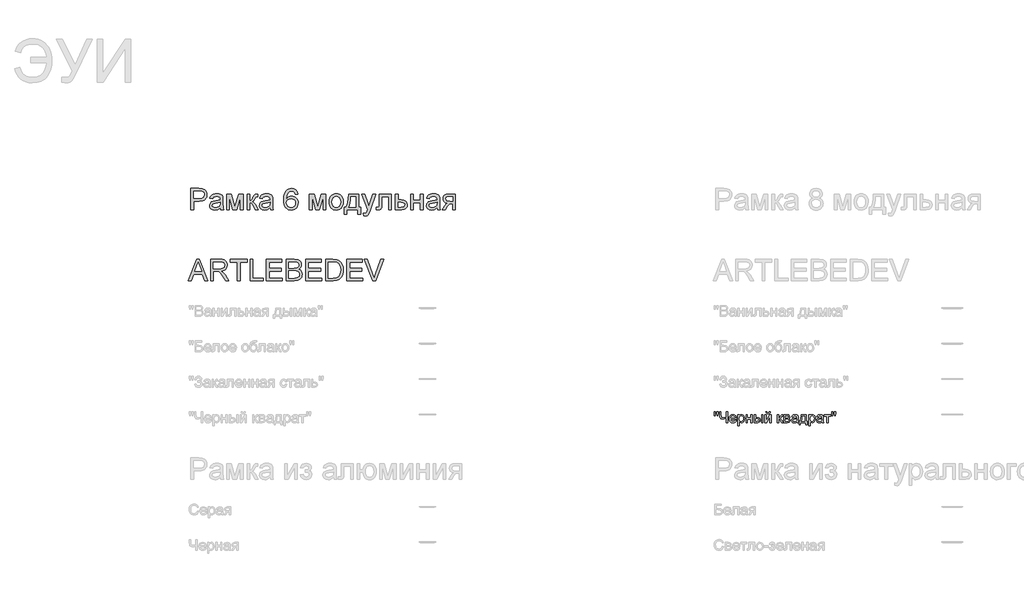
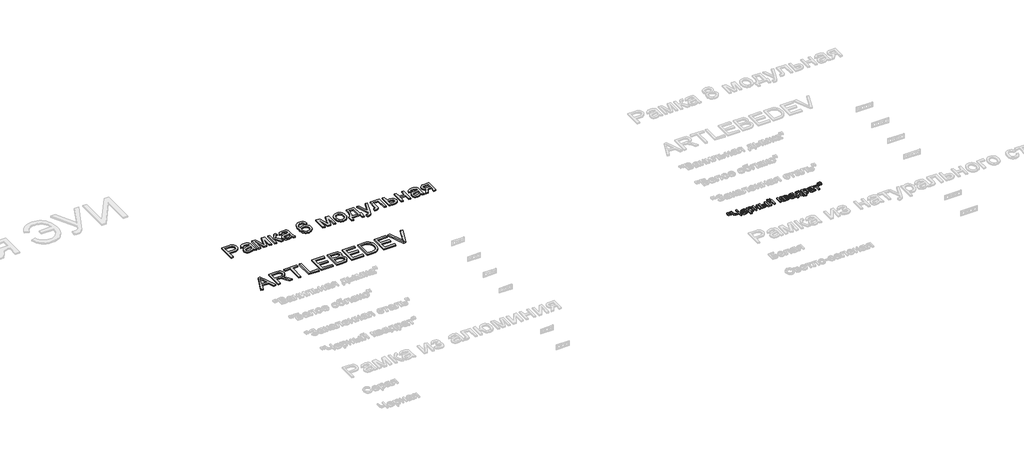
# One storey, part 129 of 168: 3 proxies.
"""IFC4 building model written with IfcOpenShell, lengths in millimetres."""

from ifc_helpers import new_model, si_unit, origin, origin_with_axes, place, context, project, spatial, polyline, outline, extrude, element, save

model = new_model("IFC4")

# Units and contexts
model_context = context("Model", 3, world=origin())
ifc_project = project(units=[si_unit("LENGTHUNIT", "METRE", prefix="MILLI")], contexts=[model_context])

# Site, building, storey
site = spatial("IfcSite", under=ifc_project)
building = spatial("IfcBuilding", under=site)
storey = spatial("IfcBuildingStorey", under=building, Name="Этаж 01", Elevation=0.0)

# Proxies
placement = place(None, origin())
element("IfcBuildingElementProxy", 1, Name="300 мм Arial 2", ObjectType="300 мм Arial 2", at=placement, inside=storey, context=model_context, shape_type="SweptSolid", body=[
    extrude(outline(polyline([(47699.0945017, -5048.4056816), (47699.0945017, -4747.0367511), (47810.7834754, -4747.0367511), (47855.8122316, -4749.9062307), (47875.8893915, -4755.2681108), (47892.4164901, -4763.9961111), (47905.7246213, -4776.4857048), (47916.1448788, -4793.1323651), (47922.8771193, -4812.7680666), (47925.1211995, -4834.224784), (47923.6059855, -4852.7246498), (47919.0603436, -4869.7437906), (47911.4842738, -4885.2822064), (47900.877776, -4899.3398971), (47886.3165468, -4910.9925593), (47866.8762826, -4919.3158895), (47842.5569835, -4924.3098875), (47813.3586494, -4925.9745536), (47736.765618, -4925.9745536), (47736.765618, -5048.4056816), (47699.0945017, -5048.4056816)]), holes=[polyline([(47736.765618, -4888.3034373), (47815.5659413, -4888.3034373), (47848.9696265, -4884.8453465), (47871.0425462, -4874.4710742), (47883.3481989, -4857.824414), (47887.4500832, -4835.5491592), (47885.0312591, -4818.6265874), (47877.7747867, -4804.352766), (47866.581977, -4793.6106117), (47852.3541408, -4787.2830414), (47814.6830245, -4784.7078674), (47736.765618, -4784.7078674), (47736.765618, -4888.3034373)])]), origin_with_axes(), (0.0, 0.0, 1.0), 20.0),
    extrude(outline(polyline([(48113.476781, -5020.1523443), (48095.4781544, -5035.584994), (48076.9460989, -5045.6833548), (48057.4575502, -5051.256767), (48036.589444, -5053.1145711), (48005.1079423, -5048.6448049), (47981.8853914, -5035.2355061), (47967.5655847, -5014.8732377), (47962.7923158, -4989.5445623), (47964.5949376, -4973.9279716), (47970.0028029, -4959.7461207), (47978.3445271, -4947.6060149), (47988.9487257, -4938.1146594), (48015.3258647, -4925.7538244), (48047.9202095, -4920.0884417), (48086.4374544, -4914.1287533), (48113.2560518, -4907.1389954), (48113.476781, -4898.7512859), (48110.883213, -4881.9390788), (48103.1025088, -4870.9394071), (48085.7016904, -4862.7724268), (48061.4582669, -4860.0501), (48039.0174652, -4861.8619189), (48023.3456922, -4867.2973753), (48012.6587202, -4877.3497509), (48005.1723216, -4893.0123268), (47967.5012053, -4888.3034373), (47974.0403078, -4867.7020455), (47983.7983777, -4851.5152378), (47997.685923, -4839.1360086), (48016.6134517, -4829.9573528), (48039.7624262, -4824.273576), (48066.3143092, -4822.3789837), (48091.7809404, -4824.0528468), (48111.9684648, -4829.074436), (48127.1895824, -4836.625214), (48137.7569927, -4845.8866432), (48144.7651447, -4857.3369703), (48149.3084874, -4871.4544419), (48151.1478973, -4904.4166687), (48151.1478973, -4951.2848348), (48153.0608837, -5016.7310418), (48160.5656764, -5048.4056816), (48122.8945601, -5048.4056816), (48113.476781, -5020.1523443)]), holes=[polyline([(48113.476781, -4944.8101117), (48052.7026754, -4956.3616064), (48020.2922716, -4962.4684475), (48005.61378, -4972.4012614), (48000.4634321, -4986.895812), (48003.2685323, -4998.0978187), (48011.683833, -5007.2764745), (48025.525393, -5013.4017097), (48044.6092715, -5015.4434548), (48064.8427813, -5013.1901776), (48082.7218462, -5006.4303459), (48097.2163968, -4996.4699409), (48107.2963635, -4984.6149436), (48111.7661297, -4972.4012614), (48113.2560518, -4955.4786896), (48113.476781, -4944.8101117)])]), origin_with_axes(), (0.0, 0.0, 1.0), 20.0),
    extrude(outline(polyline([(48202.9456823, -4827.0878733), (48267.7664898, -4827.0878733), (48317.7248647, -5004.2598421), (48371.5827888, -4827.0878733), (48433.6812696, -4827.0878733), (48433.6812696, -5048.4056816), (48396.0101533, -5048.4056816), (48396.0101533, -4870.2036431), (48341.8579236, -5048.4056816), (48292.4145835, -5048.4056816), (48240.6167986, -4861.6687808), (48240.6167986, -5048.4056816), (48202.9456823, -5048.4056816), (48202.9456823, -4827.0878733)])), origin_with_axes(), (0.0, 0.0, 1.0), 20.0),
    extrude(outline(polyline([(48490.1879441, -4827.0878733), (48527.8590604, -4827.0878733), (48527.8590604, -4921.265664), (48543.1813455, -4919.5734069), (48553.0957653, -4914.4966353), (48561.8697508, -4901.2528835), (48573.7707334, -4875.0596854), (48590.9508226, -4841.0306009), (48606.1075608, -4829.9573528), (48633.6619222, -4827.0878733), (48640.8724093, -4827.0878733), (48640.8724093, -4864.9797188), (48630.7188662, -4864.7589896), (48612.3247665, -4868.7321151), (48599.3753203, -4893.5273616), (48584.1817939, -4920.345959), (48562.8814263, -4933.4793463), (48574.8191971, -4938.7814455), (48586.6466032, -4948.1394438), (48609.9703217, -4979.0231373), (48650.2901884, -5048.4056816), (48607.4687241, -5048.4056816), (48567.9581979, -4980.4946653), (48548.0925701, -4951.7630814), (48538.8035497, -4946.5483542), (48527.8590604, -4944.8101117), (48527.8590604, -5048.4056816), (48490.1879441, -5048.4056816), (48490.1879441, -4827.0878733)])), origin_with_axes(), (0.0, 0.0, 1.0), 20.0),
    extrude(outline(polyline([(48815.1013222, -5020.1523443), (48797.1026956, -5035.584994), (48778.5706401, -5045.6833548), (48759.0820914, -5051.256767), (48738.2139852, -5053.1145711), (48706.7324835, -5048.6448049), (48683.5099326, -5035.2355061), (48669.1901259, -5014.8732377), (48664.416857, -4989.5445623), (48666.2194788, -4973.9279716), (48671.6273441, -4959.7461207), (48679.9690683, -4947.6060149), (48690.5732669, -4938.1146594), (48716.9504059, -4925.7538244), (48749.5447507, -4920.0884417), (48788.0619956, -4914.1287533), (48814.880593, -4907.1389954), (48815.1013222, -4898.7512859), (48812.5077542, -4881.9390788), (48804.72705, -4870.9394071), (48787.3262316, -4862.7724268), (48763.0828081, -4860.0501), (48740.6420064, -4861.8619189), (48724.9702334, -4867.2973753), (48714.2832614, -4877.3497509), (48706.7968628, -4893.0123268), (48669.1257465, -4888.3034373), (48675.664849, -4867.7020455), (48685.4229189, -4851.5152378), (48699.3104642, -4839.1360086), (48718.2379929, -4829.9573528), (48741.3869674, -4824.273576), (48767.9388504, -4822.3789837), (48793.4054816, -4824.0528468), (48813.593006, -4829.074436), (48828.8141236, -4836.625214), (48839.3815339, -4845.8866432), (48846.3896859, -4857.3369703), (48850.9330286, -4871.4544419), (48852.7724385, -4904.4166687), (48852.7724385, -4951.2848348), (48854.6854249, -5016.7310418), (48862.1902176, -5048.4056816), (48824.5191013, -5048.4056816), (48815.1013222, -5020.1523443)]), holes=[polyline([(48815.1013222, -4944.8101117), (48754.3272166, -4956.3616064), (48721.9168128, -4962.4684475), (48707.2383212, -4972.4012614), (48702.0879733, -4986.895812), (48704.8930735, -4998.0978187), (48713.3083742, -5007.2764745), (48727.1499342, -5013.4017097), (48746.2338127, -5015.4434548), (48766.4673225, -5013.1901776), (48784.3463874, -5006.4303459), (48798.840938, -4996.4699409), (48808.9209047, -4984.6149436), (48813.3906709, -4972.4012614), (48814.880593, -4955.4786896), (48815.1013222, -4944.8101117)])]), origin_with_axes(), (0.0, 0.0, 1.0), 20.0),
    extrude(outline(polyline([(49205.9391539, -4827.0878733), (49168.2680376, -4831.7967628), (49162.1979847, -4813.1267516), (49153.9942162, -4800.3796404), (49136.9060975, -4788.6258107), (49116.2495235, -4784.7078674), (49098.7383405, -4786.9887358), (49082.2572271, -4793.8313409), (49068.1029674, -4808.2431181), (49056.5422757, -4828.0811547), (49048.7339803, -4856.1413538), (49045.8369096, -4895.2196188), (49060.9476626, -4877.5888742), (49079.0566538, -4865.1636598), (49099.1522078, -4857.7968228), (49120.222649, -4855.3412105), (49138.3224432, -4857.0196721), (49155.0242858, -4862.0550569), (49170.3281768, -4870.4473649), (49184.2341162, -4882.1965961), (49195.7902094, -4896.6037748), (49204.0445616, -4912.969925), (49208.997173, -4931.2950469), (49210.6480434, -4951.5791404), (49207.5394406, -4978.5540877), (49198.213632, -5003.5608664), (49183.4431699, -5024.7692634), (49164.0006065, -5040.3490659), (49140.7688585, -5049.9231948), (49114.6308427, -5053.1145711), (49092.1739462, -5050.9992496), (49071.8921519, -5044.6532852), (49053.78546, -5034.0766779), (49037.8538703, -5019.2694276), (49024.8653366, -4999.6061349), (49015.5878125, -4974.4614005), (49010.0212981, -4943.8352244), (49008.1657933, -4907.7276066), (49010.2259325, -4867.2467916), (49016.40635, -4832.6980737), (49026.7070459, -4804.081453), (49041.1280201, -4781.3969295), (49056.7584063, -4766.3643514), (49074.8811931, -4755.6267957), (49095.4963804, -4749.1842623), (49118.6039682, -4747.0367511), (49151.6581655, -4752.352646), (49178.1272751, -4768.3003304), (49196.6685276, -4793.6290058), (49205.9391539, -4827.0878733)]), holes=[polyline([(49045.8369096, -4950.9905292), (49048.0166104, -4967.6831748), (49054.5557129, -4983.6216622), (49064.709256, -4997.3252665), (49077.7322786, -5007.3132627), (49093.4500368, -5013.4109068), (49111.6877867, -5015.4434548), (49136.5474126, -5011.231206), (49156.0911436, -4998.5944594), (49168.7554812, -4978.7288317), (49172.9769271, -4952.8299392), (49168.8106635, -4927.9703134), (49156.3118728, -4909.0151936), (49136.437048, -4897.0130435), (49110.1426824, -4893.0123268), (49085.3198447, -4897.0130435), (49064.5621032, -4909.0151936), (49050.518208, -4927.5104609), (49045.8369096, -4950.9905292)])]), origin_with_axes(), (0.0, 0.0, 1.0), 20.0),
    extrude(outline(polyline([(49370.7502877, -4827.0878733), (49435.5710953, -4827.0878733), (49485.5294702, -5004.2598421), (49539.3873943, -4827.0878733), (49601.4858751, -4827.0878733), (49601.4858751, -5048.4056816), (49563.8147588, -5048.4056816), (49563.8147588, -4870.2036431), (49509.6625291, -5048.4056816), (49460.219189, -5048.4056816), (49408.421404, -4861.6687808), (49408.421404, -5048.4056816), (49370.7502877, -5048.4056816), (49370.7502877, -4827.0878733)])), origin_with_axes(), (0.0, 0.0, 1.0), 20.0),
    extrude(outline(polyline([(49648.5747705, -4937.7467774), (49650.611917, -4909.0841715), (49656.7233567, -4884.385494), (49666.9090894, -4863.6507451), (49681.1691153, -4846.8799246), (49695.5257101, -4836.160763), (49711.3722271, -4828.504219), (49728.7086661, -4823.9102925), (49747.5350272, -4822.3789837), (49768.3180607, -4824.2436856), (49787.1099328, -4829.8377912), (49803.9106437, -4839.1613005), (49818.7201933, -4852.2142135), (49830.8074161, -4868.5550719), (49839.4411466, -4887.7424172), (49844.621385, -4909.7762495), (49846.3481311, -4934.6565687), (49843.2947105, -4972.7139611), (49834.1344489, -5001.6846682), (49819.1340605, -5023.3805088), (49798.5602599, -5039.6133019), (49774.1236984, -5049.7392538), (49747.5350272, -5053.1145711), (49726.4484911, -5051.256767), (49707.481875, -5045.6833548), (49690.6351789, -5036.3943344), (49675.9084027, -5023.3897059), (49663.9499386, -5006.8901984), (49655.4081786, -4987.1165412), (49650.2831225, -4964.0687342), (49648.5747705, -4937.7467774)]), holes=[polyline([(49686.2458868, -4937.673201), (49690.6052884, -4971.7666649), (49703.6834934, -4996.0560737), (49723.3651801, -5010.5966095), (49747.5350272, -5015.4434548), (49771.5945097, -5010.5690184), (49791.2394082, -4995.9457091), (49804.3176132, -4971.3344036), (49808.6770148, -4936.4959786), (49804.290022, -4903.3957961), (49791.1290436, -4879.4374812), (49771.4565539, -4864.8969453), (49747.5350272, -4860.0501), (49723.3651801, -4864.8785512), (49703.6834934, -4879.3639048), (49690.6052884, -4903.5981312), (49686.2458868, -4937.673201)])]), origin_with_axes(), (0.0, 0.0, 1.0), 20.0),
    extrude(outline(polyline([(49921.6903637, -4827.0878733), (50062.9570499, -4827.0878733), (50062.9570499, -5010.7345653), (50091.2103871, -5010.7345653), (50091.2103871, -5109.6212456), (50053.5392708, -5109.6212456), (50053.5392708, -5048.4056816), (49898.145916, -5048.4056816), (49898.145916, -5109.6212456), (49860.4747997, -5109.6212456), (49860.4747997, -5010.7345653), (49884.0192474, -5010.7345653), (49901.1349572, -4979.8048865), (49913.1187132, -4938.8872116), (49919.9705154, -4887.9815405), (49921.6903637, -4827.0878733)]), holes=[polyline([(49954.6525905, -4864.7589896), (49951.5623817, -4910.8821947), (49945.8234226, -4950.5858591), (49937.4357131, -4983.8699826), (49926.3992533, -5010.7345653), (50025.2859336, -5010.7345653), (50025.2859336, -4864.7589896), (49954.6525905, -4864.7589896)])]), origin_with_axes(), (0.0, 0.0, 1.0), 20.0),
    extrude(outline(polyline([(50133.5903929, -5133.1656933), (50128.8815034, -5096.8925285), (50148.0113672, -5100.2034665), (50165.8904321, -5096.0463999), (50176.8533156, -5084.4581171), (50187.1540114, -5056.7198147), (50190.0970674, -5047.5963412), (50110.0459452, -4827.0878733), (50149.7772007, -4827.0878733), (50192.230783, -4949.9604597), (50207.0196392, -4999.1094942), (50221.8084954, -4955.6994188), (50265.4393, -4827.0878733), (50304.8762499, -4827.0878733), (50227.8417601, -5053.7031823), (50207.8289796, -5102.8522169), (50197.583466, -5118.5423839), (50185.9767891, -5129.4132969), (50172.4939139, -5135.7592613), (50156.6198058, -5137.8745828), (50133.5903929, -5133.1656933)])), origin_with_axes(), (0.0, 0.0, 1.0), 20.0),
    extrude(outline(polyline([(50354.9082012, -4827.0878733), (50524.4282246, -4827.0878733), (50524.4282246, -5048.1849524), (50486.7571083, -5048.1849524), (50486.7571083, -4864.7589896), (50392.5793175, -4864.7589896), (50392.5793175, -4970.3411222), (50390.0409318, -5019.0486984), (50385.286057, -5030.0759612), (50376.0982042, -5039.6133019), (50362.1554765, -5046.2075866), (50343.1359774, -5048.4056816), (50312.5281954, -5046.4926952), (50312.5281954, -5010.7345653), (50329.3771908, -5010.7345653), (50346.4101271, -5008.4169087), (50353.2159441, -5001.0592688), (50354.9082012, -4968.2074066), (50354.9082012, -4827.0878733)])), origin_with_axes(), (0.0, 0.0, 1.0), 20.0),
    extrude(outline(polyline([(50580.9348991, -4827.0878733), (50618.6060154, -4827.0878733), (50618.6060154, -4907.1389954), (50662.0160908, -4907.1389954), (50699.6504189, -4911.857082), (50714.7979601, -4917.7546902), (50727.499086, -4926.0113418), (50737.5422644, -4936.3419281), (50744.7159633, -4948.4613405), (50750.4549225, -4978.0666441), (50745.571289, -5005.0231973), (50730.9203885, -5027.7675016), (50719.6884913, -5036.7967054), (50705.5273338, -5043.2461366), (50668.4172375, -5048.4056816), (50580.9348991, -5048.4056816), (50580.9348991, -4827.0878733)]), holes=[polyline([(50618.6060154, -5010.7345653), (50653.7755341, -5010.7345653), (50681.0631811, -5008.7571995), (50699.2089605, -5002.8251024), (50709.3900947, -4992.6991504), (50712.7838061, -4978.1402205), (50710.2730115, -4965.8345678), (50702.7406277, -4954.9636548), (50686.5998051, -4947.3484975), (50658.2636945, -4944.8101117), (50618.6060154, -4944.8101117), (50618.6060154, -5010.7345653)])]), origin_with_axes(), (0.0, 0.0, 1.0), 20.0),
    extrude(outline(polyline([(50797.5438178, -4827.0878733), (50835.2149341, -4827.0878733), (50835.2149341, -4911.847885), (50934.1016144, -4911.847885), (50934.1016144, -4827.0878733), (50971.7727308, -4827.0878733), (50971.7727308, -5048.4056816), (50934.1016144, -5048.4056816), (50934.1016144, -4949.5190013), (50835.2149341, -4949.5190013), (50835.2149341, -5048.4056816), (50797.5438178, -5048.4056816), (50797.5438178, -4827.0878733)])), origin_with_axes(), (0.0, 0.0, 1.0), 20.0),
    extrude(outline(polyline([(51169.5460914, -5020.1523443), (51151.5474647, -5035.584994), (51133.0154092, -5045.6833548), (51113.5268605, -5051.256767), (51092.6587544, -5053.1145711), (51061.1772526, -5048.6448049), (51037.9547017, -5035.2355061), (51023.634895, -5014.8732377), (51018.8616261, -4989.5445623), (51020.6642479, -4973.9279716), (51026.0721132, -4959.7461207), (51034.4138375, -4947.6060149), (51045.018036, -4938.1146594), (51071.395175, -4925.7538244), (51103.9895198, -4920.0884417), (51142.5067647, -4914.1287533), (51169.3253622, -4907.1389954), (51169.5460914, -4898.7512859), (51166.9525233, -4881.9390788), (51159.1718191, -4870.9394071), (51141.7710007, -4862.7724268), (51117.5275772, -4860.0501), (51095.0867755, -4861.8619189), (51079.4150025, -4867.2973753), (51068.7280306, -4877.3497509), (51061.241632, -4893.0123268), (51023.5705157, -4888.3034373), (51030.1096181, -4867.7020455), (51039.8676881, -4851.5152378), (51053.7552334, -4839.1360086), (51072.682762, -4829.9573528), (51095.8317366, -4824.273576), (51122.3836196, -4822.3789837), (51147.8502507, -4824.0528468), (51168.0377752, -4829.074436), (51183.2588927, -4836.625214), (51193.826303, -4845.8866432), (51200.834455, -4857.3369703), (51205.3777977, -4871.4544419), (51207.2172077, -4904.4166687), (51207.2172077, -4951.2848348), (51209.130194, -5016.7310418), (51216.6349867, -5048.4056816), (51178.9638704, -5048.4056816), (51169.5460914, -5020.1523443)]), holes=[polyline([(51169.5460914, -4944.8101117), (51108.7719858, -4956.3616064), (51076.361582, -4962.4684475), (51061.6830904, -4972.4012614), (51056.5327424, -4986.895812), (51059.3378427, -4998.0978187), (51067.7531433, -5007.2764745), (51081.5947034, -5013.4017097), (51100.6785819, -5015.4434548), (51120.9120916, -5013.1901776), (51138.7911566, -5006.4303459), (51153.2857072, -4996.4699409), (51163.3656738, -4984.6149436), (51167.8354401, -4972.4012614), (51169.3253622, -4955.4786896), (51169.5460914, -4944.8101117)])]), origin_with_axes(), (0.0, 0.0, 1.0), 20.0),
    extrude(outline(polyline([(51428.535016, -4827.0878733), (51428.535016, -5048.4056816), (51390.8638997, -5048.4056816), (51390.8638997, -4963.6456699), (51370.3360843, -4963.6456699), (51342.3770527, -4968.4281358), (51331.2118341, -4978.8575904), (51316.1102782, -5000.5810222), (51286.0911074, -5048.4056816), (51242.5338792, -5048.4056816), (51280.3521483, -4987.9258816), (51297.0539909, -4966.2208438), (51312.4314583, -4956.5823356), (51286.6797186, -4948.6912668), (51268.5799245, -4933.7000755), (51257.8745584, -4913.7608713), (51254.306103, -4891.025764), (51259.1805395, -4865.2372362), (51273.8038488, -4844.8197854), (51297.6609962, -4831.5208513), (51330.2369469, -4827.0878733), (51428.535016, -4827.0878733)]), holes=[polyline([(51390.8638997, -4864.7589896), (51341.1998303, -4864.7589896), (51315.5492582, -4866.9386904), (51300.9903282, -4873.4777929), (51294.2304966, -4882.9415572), (51291.9772194, -4893.8952436), (51295.2973544, -4908.2518385), (51305.2577594, -4918.2122435), (51323.6610562, -4924.033976), (51352.3098666, -4925.9745536), (51390.8638997, -4925.9745536), (51390.8638997, -4864.7589896)])]), origin_with_axes(), (0.0, 0.0, 1.0), 20.0),
])
element("IfcBuildingElementProxy", 2, Name="300 мм Arial 2", ObjectType="300 мм Arial 2", at=placement, inside=storey, context=model_context, shape_type="SweptSolid", body=[
    extrude(outline(polyline([(47663.9985593, -6048.4056816), (47784.2959717, -5747.0367511), (47816.3752817, -5747.0367511), (47936.6726941, -6048.4056816), (47896.8678623, -6048.4056816), (47862.3605311, -5954.2278908), (47738.2371459, -5954.2278908), (47703.8033912, -6048.4056816), (47663.9985593, -6048.4056816)]), holes=[polyline([(47752.069509, -5916.5567745), (47848.6017445, -5916.5567745), (47821.4520533, -5842.4653407), (47800.3356267, -5784.7078674), (47781.573645, -5835.9906176), (47752.069509, -5916.5567745)])]), origin_with_axes(), (0.0, 0.0, 1.0), 20.0),
    extrude(outline(polyline([(47976.9189844, -6048.4056816), (47976.9189844, -5747.0367511), (48106.7813287, -5747.0367511), (48141.684133, -5749.0692991), (48167.0771877, -5755.1669432), (48185.6368344, -5766.4241323), (48200.0394145, -5783.9353152), (48209.2824496, -5805.64955), (48212.3634613, -5829.5158944), (48207.2590986, -5859.2039714), (48191.9460106, -5883.8152769), (48180.3462314, -5893.8446598), (48165.9643447, -5901.8598888), (48128.8542484, -5911.847885), (48150.2649805, -5927.9611163), (48180.7991861, -5966.7358786), (48231.0518667, -6048.4056816), (48187.2739093, -6048.4056816), (48148.0576886, -5985.9393188), (48119.7307749, -5944.5893825), (48099.828359, -5925.0548486), (48081.9125058, -5917.8811497), (48060.0603153, -5916.5567745), (48014.5901007, -5916.5567745), (48014.5901007, -6048.4056816), (47976.9189844, -6048.4056816)]), holes=[polyline([(48014.5901007, -5878.8856582), (48098.908654, -5878.8856582), (48123.1244863, -5877.552086), (48141.9140593, -5873.5513693), (48156.059122, -5866.6167937), (48166.3414237, -5856.4816447), (48172.6046147, -5844.2219772), (48174.692345, -5830.913846), (48170.7100224, -5812.5381404), (48158.7630546, -5797.7308901), (48138.2076482, -5787.9636231), (48108.4000095, -5784.7078674), (48014.5901007, -5784.7078674), (48014.5901007, -5878.8856582)])]), origin_with_axes(), (0.0, 0.0, 1.0), 20.0),
    extrude(outline(polyline([(48353.6301475, -6048.4056816), (48353.6301475, -5784.7078674), (48254.7434672, -5784.7078674), (48254.7434672, -5747.0367511), (48490.1879441, -5747.0367511), (48490.1879441, -5784.7078674), (48391.3012638, -5784.7078674), (48391.3012638, -6048.4056816), (48353.6301475, -6048.4056816)])), origin_with_axes(), (0.0, 0.0, 1.0), 20.0),
    extrude(outline(polyline([(48532.5679499, -6048.4056816), (48532.5679499, -5747.0367511), (48570.2390662, -5747.0367511), (48570.2390662, -6010.7345653), (48720.9235315, -6010.7345653), (48720.9235315, -6048.4056816), (48532.5679499, -6048.4056816)])), origin_with_axes(), (0.0, 0.0, 1.0), 20.0),
    extrude(outline(polyline([(48763.3035373, -6048.4056816), (48763.3035373, -5747.0367511), (48979.9124561, -5747.0367511), (48979.9124561, -5784.7078674), (48800.9746536, -5784.7078674), (48800.9746536, -5874.1767687), (48970.494677, -5874.1767687), (48970.494677, -5911.847885), (48800.9746536, -5911.847885), (48800.9746536, -6010.7345653), (48984.6213456, -6010.7345653), (48984.6213456, -6048.4056816), (48763.3035373, -6048.4056816)])), origin_with_axes(), (0.0, 0.0, 1.0), 20.0),
    extrude(outline(polyline([(49041.1280201, -6048.4056816), (49041.1280201, -5747.0367511), (49156.1279318, -5747.0367511), (49187.7565863, -5749.2532401), (49212.4506652, -5755.9027072), (49231.3781939, -5767.1506992), (49245.7071976, -5783.162763), (49254.7295035, -5801.9983212), (49257.7369388, -5821.7167961), (49255.2077501, -5839.8625756), (49247.620184, -5856.9231031), (49234.9190581, -5871.849915), (49217.0491902, -5883.5945477), (49238.3955429, -5894.7413722), (49254.1684835, -5911.7007322), (49263.9081593, -5933.3505876), (49267.1547179, -5958.5688983), (49264.9382289, -5979.5841573), (49258.2887618, -5999.072706), (49248.365145, -6015.6457899), (49236.3262067, -6027.9146544), (49221.5833357, -6036.7990046), (49203.5479209, -6043.2185454), (49155.245015, -6048.4056816), (49041.1280201, -6048.4056816)]), holes=[polyline([(49078.7991364, -5869.4678791), (49147.5930695, -5869.4678791), (49187.7657833, -5866.2305176), (49201.8280726, -5860.6479083), (49211.9356304, -5852.2877899), (49218.0332745, -5841.2789212), (49220.0658225, -5827.7500609), (49218.1712302, -5814.6166736), (49212.4874534, -5803.1755436), (49203.2720094, -5794.2452082), (49190.7824157, -5788.6442048), (49142.3691451, -5784.7078674), (49078.7991364, -5784.7078674), (49078.7991364, -5869.4678791)]), polyline([(49078.7991364, -6010.7345653), (49156.0543554, -6010.7345653), (49184.013387, -6009.2630373), (49207.6681993, -6001.0592688), (49223.3399723, -5984.320638), (49227.9476943, -5972.4932319), (49229.4836016, -5958.9367803), (49227.6809798, -5943.1914309), (49222.2731145, -5929.6533735), (49212.8277443, -5919.0675691), (49198.9126078, -5912.1789788), (49179.2033299, -5908.3989913), (49152.3755354, -5907.1389954), (49078.7991364, -5907.1389954), (49078.7991364, -6010.7345653)])]), origin_with_axes(), (0.0, 0.0, 1.0), 20.0),
    extrude(outline(polyline([(49318.9525028, -6048.4056816), (49318.9525028, -5747.0367511), (49535.5614216, -5747.0367511), (49535.5614216, -5784.7078674), (49356.6236191, -5784.7078674), (49356.6236191, -5874.1767687), (49526.1436425, -5874.1767687), (49526.1436425, -5911.847885), (49356.6236191, -5911.847885), (49356.6236191, -6010.7345653), (49540.2703111, -6010.7345653), (49540.2703111, -6048.4056816), (49318.9525028, -6048.4056816)])), origin_with_axes(), (0.0, 0.0, 1.0), 20.0),
    extrude(outline(polyline([(49596.7769856, -6048.4056816), (49596.7769856, -5747.0367511), (49700.7404374, -5747.0367511), (49754.5247851, -5751.3777587), (49778.5474794, -5759.7470741), (49798.8177773, -5772.9356436), (49819.6582924, -5795.8914801), (49834.5023309, -5824.4391229), (49843.386681, -5858.0267491), (49846.3481311, -5896.1025356), (49844.3431742, -5928.44856), (49838.3283036, -5956.9134294), (49829.1680419, -5981.1476558), (49817.7269119, -6000.8017514), (49804.5567365, -6016.3171745), (49790.2093386, -6028.1353836), (49773.7374223, -6036.9001722), (49754.1936913, -6043.2553336), (49705.7436325, -6048.4056816), (49596.7769856, -6048.4056816)]), holes=[polyline([(49634.4481019, -6010.7345653), (49701.1083194, -6010.7345653), (49728.6810749, -6009.3734019), (49749.5951664, -6005.2899117), (49765.377304, -5998.7232181), (49777.554198, -5989.9124443), (49790.6416, -5973.6060749), (49800.4732463, -5952.4988454), (49806.6260727, -5926.4987854), (49808.6770148, -5895.5139244), (49804.657904, -5854.4582937), (49792.6005716, -5824.1448173), (49774.785886, -5803.3226964), (49753.4947155, -5790.7411321), (49731.826466, -5786.2161836), (49700.0782498, -5784.7078674), (49634.4481019, -5784.7078674), (49634.4481019, -6010.7345653)])]), origin_with_axes(), (0.0, 0.0, 1.0), 20.0),
    extrude(outline(polyline([(49898.145916, -6048.4056816), (49898.145916, -5747.0367511), (50114.7548348, -5747.0367511), (50114.7548348, -5784.7078674), (49935.8170323, -5784.7078674), (49935.8170323, -5874.1767687), (50105.3370557, -5874.1767687), (50105.3370557, -5911.847885), (49935.8170323, -5911.847885), (49935.8170323, -6010.7345653), (50119.4637243, -6010.7345653), (50119.4637243, -6048.4056816), (49898.145916, -6048.4056816)])), origin_with_axes(), (0.0, 0.0, 1.0), 20.0),
    extrude(outline(polyline([(50264.9978416, -6048.4056816), (50145.0683112, -5747.0367511), (50185.3881779, -5747.0367511), (50265.6600292, -5964.1607047), (50281.9204134, -6013.08901), (50297.9600684, -5964.1607047), (50378.4526489, -5747.0367511), (50418.7725156, -5747.0367511), (50303.9197567, -6048.4056816), (50264.9978416, -6048.4056816)])), origin_with_axes(), (0.0, 0.0, 1.0), 20.0),
])
element("IfcBuildingElementProxy", 3, Name="150", ObjectType="150", at=placement, inside=storey, context=model_context, shape_type="SweptSolid", body=[
    extrude(outline(polyline([(55080.1485789, -7951.873446), (55075.550054, -7922.7739802), (55075.550054, -7897.7212163), (55094.3856121, -7897.7212163), (55094.3856121, -7922.7739802), (55090.2653338, -7951.873446), (55080.1485789, -7951.873446)])), origin_with_axes(), (0.0, 0.0, 1.0), 20.0),
    extrude(outline(polyline([(55117.7093306, -7951.873446), (55113.2211703, -7922.7739802), (55113.2211703, -7897.7212163), (55132.0567284, -7897.7212163), (55132.0567284, -7922.7739802), (55127.6421445, -7951.873446), (55117.7093306, -7951.873446)])), origin_with_axes(), (0.0, 0.0, 1.0), 20.0),
    extrude(outline(polyline([(55263.9056355, -8048.4056816), (55245.0700773, -8048.4056816), (55245.0700773, -7988.0730344), (55220.0908899, -7996.2400147), (55198.4226404, -7998.9623414), (55183.7395502, -7997.0999388), (55170.886673, -7991.512731), (55160.926268, -7983.0606422), (55154.9205944, -7972.6035965), (55150.8922866, -7942.6028198), (55150.8922866, -7897.7212163), (55169.7278447, -7897.7212163), (55169.7278447, -7940.064434), (55171.990319, -7960.4313009), (55178.7777418, -7972.3828673), (55188.7381468, -7978.1908043), (55200.5195677, -7980.1267833), (55222.2521966, -7977.7907326), (55245.0700773, -7970.7825806), (55245.0700773, -7897.7212163), (55263.9056355, -7897.7212163), (55263.9056355, -8048.4056816)])), origin_with_axes(), (0.0, 0.0, 1.0), 20.0),
    extrude(outline(polyline([(55371.9893657, -8015.4434548), (55390.4570418, -8017.7978996), (55383.8029763, -8031.713036), (55373.1849822, -8042.1148995), (55358.8421829, -8048.5988196), (55341.0137017, -8050.7601263), (55318.9131908, -8047.0307226), (55301.9078456, -8035.8425114), (55291.0645238, -8017.9220597), (55287.4500832, -7993.9959345), (55291.101312, -7969.2650674), (55302.0549984, -7950.7698), (55318.8304174, -7939.2366995), (55339.9468439, -7935.3923327), (55360.4056814, -7939.2275025), (55376.7534375, -7950.7330118), (55387.4725992, -7969.191491), (55391.045653, -7993.8855699), (55390.9352884, -7998.9623414), (55306.2856413, -7998.9623414), (55309.5459955, -8013.0614189), (55317.1197661, -8023.4264941), (55328.0504599, -8029.8000497), (55341.3815837, -8031.9245682), (55359.8492598, -8027.9882308), (55371.9893657, -8015.4434548)]), holes=[polyline([(55306.2856413, -7980.1267833), (55372.2100949, -7980.1267833), (55369.6625121, -7970.1755753), (55364.668514, -7963.0570587), (55353.6872364, -7956.4351828), (55339.8732675, -7954.2278908), (55327.1767401, -7955.9891259), (55316.6783077, -7961.272831), (55309.3804486, -7969.5087892), (55306.2856413, -7980.1267833)])]), origin_with_axes(), (0.0, 0.0, 1.0), 20.0),
    extrude(outline(polyline([(55409.8812112, -8090.7856874), (55409.8812112, -7937.7467774), (55428.7167693, -7937.7467774), (55428.7167693, -7956.2144536), (55441.739792, -7940.5978629), (55459.3245513, -7935.3923327), (55472.0624654, -7937.2133485), (55483.2000928, -7942.6763962), (55492.268384, -7951.4503817), (55498.7982894, -7963.2042115), (55504.0590019, -7992.2301009), (55502.5736784, -8008.3387338), (55498.1177077, -8022.7459124), (55490.8336442, -8034.7204713), (55480.8640422, -8043.5312451), (55469.2527667, -8048.952906), (55457.043683, -8050.7601263), (55440.6545401, -8045.9224781), (55428.7167693, -8033.6904018), (55428.7167693, -8090.7856874), (55409.8812112, -8090.7856874)]), holes=[polyline([(55428.7167693, -7993.9591463), (55430.7539159, -8010.8449299), (55436.8653555, -8022.6539419), (55445.8830629, -8029.6069116), (55456.6390128, -8031.9245682), (55467.5697066, -8029.5241382), (55476.8173402, -8022.3228481), (55483.1219179, -8010.0815747), (55485.2234438, -7992.5611947), (55483.1725017, -7975.7673816), (55477.0196753, -7963.7928227), (55468.0157635, -7956.6191238), (55457.411565, -7954.2278908), (55446.7659797, -7956.7708751), (55437.4171785, -7964.399828), (55430.8918716, -7976.8756261), (55428.7167693, -7993.9591463)])]), origin_with_axes(), (0.0, 0.0, 1.0), 20.0),
    extrude(outline(polyline([(55525.2490049, -7937.7467774), (55544.084563, -7937.7467774), (55544.084563, -7980.1267833), (55593.5279032, -7980.1267833), (55593.5279032, -7937.7467774), (55612.3634613, -7937.7467774), (55612.3634613, -8048.4056816), (55593.5279032, -8048.4056816), (55593.5279032, -7998.9623414), (55544.084563, -7998.9623414), (55544.084563, -8048.4056816), (55525.2490049, -8048.4056816), (55525.2490049, -7937.7467774)])), origin_with_axes(), (0.0, 0.0, 1.0), 20.0),
    extrude(outline(polyline([(55744.2123684, -7937.7467774), (55763.0479266, -7937.7467774), (55763.0479266, -8048.4056816), (55744.2123684, -8048.4056816), (55744.2123684, -7937.7467774)])), origin_with_axes(), (0.0, 0.0, 1.0), 20.0),
    extrude(outline(polyline([(55640.6167986, -7937.7467774), (55659.4523567, -7937.7467774), (55659.4523567, -7977.7723385), (55682.739287, -7977.7723385), (55702.8670307, -7980.1313818), (55717.780047, -7987.2085117), (55727.0092866, -7998.433511), (55730.0856998, -8013.2361628), (55727.5059273, -8026.7144394), (55719.7666098, -8038.0865916), (55706.3619096, -8045.8259091), (55686.785989, -8048.4056816), (55640.6167986, -8048.4056816), (55640.6167986, -7937.7467774)]), holes=[polyline([(55659.4523567, -8029.5701234), (55678.8029497, -8029.5701234), (55703.7821371, -8025.615392), (55709.3831405, -8020.552416), (55711.2501416, -8013.272951), (55705.7135176, -8001.6846682), (55696.8337659, -7997.8770895), (55681.267759, -7996.6078966), (55659.4523567, -7996.6078966), (55659.4523567, -8029.5701234)])]), origin_with_axes(), (0.0, 0.0, 1.0), 20.0),
    extrude(outline(polyline([(55791.3012638, -7937.7467774), (55810.1368219, -7937.7467774), (55810.1368219, -8022.1389071), (55856.4163769, -7937.7467774), (55880.770165, -7937.7467774), (55880.770165, -8048.4056816), (55861.9346069, -8048.4056816), (55861.9346069, -7964.5285867), (55815.9493575, -8048.4056816), (55791.3012638, -8048.4056816), (55791.3012638, -7937.7467774)])), origin_with_axes(), (0.0, 0.0, 1.0), 20.0),
    extrude(outline(polyline([(55852.5168278, -7897.7212163), (55866.6434964, -7897.7212163), (55863.6038714, -7909.7831473), (55857.5016288, -7918.672096), (55848.6126801, -7924.1489392), (55837.2129368, -7925.9745536), (55824.8429047, -7924.1627347), (55815.2503817, -7918.7272783), (55808.6928851, -7909.8521251), (55805.4279324, -7897.7212163), (55819.554601, -7897.7212163), (55824.8521017, -7908.3346119), (55835.5206796, -7911.847885), (55847.219327, -7908.4449765), (55852.5168278, -7897.7212163)])), origin_with_axes(), (0.0, 0.0, 1.0), 20.0),
    extrude(outline(polyline([(55967.8846215, -7937.7467774), (55986.7201796, -7937.7467774), (55986.7201796, -7984.8356728), (55999.3385321, -7981.4511584), (56009.6760161, -7961.7326835), (56018.2660607, -7944.7181412), (56025.8444298, -7939.1815172), (56039.6216105, -7937.7467774), (56043.2268541, -7937.7467774), (56043.2268541, -7956.6927002), (56038.1500825, -7956.5823356), (56028.9530327, -7958.5688983), (56022.4783096, -7970.9665216), (56014.8815464, -7984.3758203), (56004.2313626, -7990.9425139), (56016.113951, -7998.2725627), (56027.7758103, -8013.7144094), (56047.9357436, -8048.4056816), (56026.5250115, -8048.4056816), (56006.7697484, -8014.4501734), (55996.8369345, -8000.0843815), (55986.7201796, -7996.6078966), (55986.7201796, -8048.4056816), (55967.8846215, -8048.4056816), (55967.8846215, -7937.7467774)])), origin_with_axes(), (0.0, 0.0, 1.0), 20.0),
    extrude(outline(polyline([(56059.7079675, -7937.7467774), (56101.2050565, -7937.7467774), (56123.9585579, -7940.2667691), (56136.7608514, -7949.5006072), (56142.1135344, -7965.5954445), (56138.8761728, -7978.6736494), (56129.1273, -7987.999458), (56141.7824406, -7998.2081833), (56146.8224239, -8015.9584896), (56143.6310476, -8030.3150845), (56136.0434815, -8040.4226423), (56124.0321343, -8046.4099217), (56107.569415, -8048.4056816), (56059.7079675, -8048.4056816), (56059.7079675, -7937.7467774)]), holes=[polyline([(56078.5435256, -7980.1267833), (56097.1583546, -7980.1267833), (56112.5174279, -7979.1702901), (56119.9854324, -7975.3443173), (56123.2779762, -7968.4281358), (56121.8340394, -7962.8087383), (56117.5022289, -7959.1942977), (56097.7469658, -7956.5823356), (56078.5435256, -7956.5823356), (56078.5435256, -7980.1267833)]), polyline([(56078.5435256, -8029.5701234), (56101.6465149, -8029.5701234), (56122.137542, -8026.167215), (56126.377382, -8021.5273033), (56127.9868658, -8014.4133852), (56124.7678983, -8005.345094), (56116.3801888, -8000.0659874), (56099.8071049, -7998.9623414), (56078.5435256, -7998.9623414), (56078.5435256, -8029.5701234)])]), origin_with_axes(), (0.0, 0.0, 1.0), 20.0),
    extrude(outline(polyline([(56241.0002147, -8034.279013), (56222.7348736, -8047.0445182), (56202.5565462, -8050.7601263), (56186.8157953, -8048.5252432), (56175.2045198, -8041.8205939), (56168.0446165, -8031.6394596), (56165.6579821, -8018.975122), (56169.2632256, -8004.0759012), (56178.736187, -7993.2601705), (56191.9247565, -7987.079753), (56208.2219289, -7984.2470616), (56240.8898501, -7977.7723385), (56241.0002147, -7973.5784838), (56239.7034307, -7965.1723802), (56235.8130786, -7959.6725443), (56227.1126694, -7955.5890542), (56214.9909576, -7954.2278908), (56195.9346703, -7957.8515285), (56186.847985, -7970.7090042), (56168.0124268, -7968.3545594), (56176.161013, -7949.9604597), (56192.56855, -7939.1815172), (56217.4189788, -7935.3923327), (56240.2460566, -7938.7400588), (56253.1403205, -7947.1461624), (56258.9160679, -7959.9300617), (56259.8357728, -7976.4111751), (56259.8357728, -7999.8452582), (56260.792266, -8032.5683617), (56264.5446624, -8048.4056816), (56245.7091042, -8048.4056816), (56241.0002147, -8034.279013)]), holes=[polyline([(56241.0002147, -7996.6078966), (56210.6131619, -8002.383644), (56194.40796, -8005.4370645), (56187.0687142, -8010.4034715), (56184.4935402, -8017.6507468), (56190.1037407, -8027.841078), (56206.5664599, -8031.9245682), (56225.6227473, -8027.4180137), (56237.9100059, -8016.5103126), (56240.8898501, -8001.9421856), (56241.0002147, -7996.6078966)])]), origin_with_axes(), (0.0, 0.0, 1.0), 20.0),
    extrude(outline(polyline([(56302.2157787, -7937.7467774), (56372.8491218, -7937.7467774), (56372.8491218, -8029.5701234), (56386.9757904, -8029.5701234), (56386.9757904, -8079.0134636), (56368.1402322, -8079.0134636), (56368.1402322, -8048.4056816), (56290.4435548, -8048.4056816), (56290.4435548, -8079.0134636), (56271.6079967, -8079.0134636), (56271.6079967, -8029.5701234), (56283.3802205, -8029.5701234), (56291.9380754, -8014.105284), (56297.9299534, -7993.6464466), (56302.2157787, -7937.7467774)]), holes=[polyline([(56318.6968921, -7956.5823356), (56314.2823081, -7999.4957703), (56304.5702235, -8029.5701234), (56354.0135636, -8029.5701234), (56354.0135636, -7956.5823356), (56318.6968921, -7956.5823356)])]), origin_with_axes(), (0.0, 0.0, 1.0), 20.0),
    extrude(outline(polyline([(56408.1657933, -8090.7856874), (56408.1657933, -7937.7467774), (56427.0013514, -7937.7467774), (56427.0013514, -7956.2144536), (56440.0243741, -7940.5978629), (56457.6091334, -7935.3923327), (56470.3470475, -7937.2133485), (56481.4846749, -7942.6763962), (56490.5529661, -7951.4503817), (56497.0828715, -7963.2042115), (56502.3435841, -7992.2301009), (56500.8582605, -8008.3387338), (56496.4022898, -8022.7459124), (56489.1182263, -8034.7204713), (56479.1486243, -8043.5312451), (56467.5373488, -8048.952906), (56455.3282651, -8050.7601263), (56438.9391222, -8045.9224781), (56427.0013514, -8033.6904018), (56427.0013514, -8090.7856874), (56408.1657933, -8090.7856874)]), holes=[polyline([(56427.0013514, -7993.9591463), (56429.038498, -8010.8449299), (56435.1499376, -8022.6539419), (56444.167645, -8029.6069116), (56454.9235949, -8031.9245682), (56465.8542887, -8029.5241382), (56475.1019223, -8022.3228481), (56481.4065, -8010.0815747), (56483.5080259, -7992.5611947), (56481.4570838, -7975.7673816), (56475.3042574, -7963.7928227), (56466.3003456, -7956.6191238), (56455.6961471, -7954.2278908), (56445.0505618, -7956.7708751), (56435.7017606, -7964.399828), (56429.1764537, -7976.8756261), (56427.0013514, -7993.9591463)])]), origin_with_axes(), (0.0, 0.0, 1.0), 20.0),
    extrude(outline(polyline([(56594.1669301, -8034.279013), (56575.901589, -8047.0445182), (56555.7232616, -8050.7601263), (56539.9825107, -8048.5252432), (56528.3712352, -8041.8205939), (56521.2113319, -8031.6394596), (56518.8246974, -8018.975122), (56522.429941, -8004.0759012), (56531.9029024, -7993.2601705), (56545.0914719, -7987.079753), (56561.3886443, -7984.2470616), (56594.0565655, -7977.7723385), (56594.1669301, -7973.5784838), (56592.870146, -7965.1723802), (56588.9797939, -7959.6725443), (56580.2793847, -7955.5890542), (56568.157673, -7954.2278908), (56549.1013856, -7957.8515285), (56540.0147004, -7970.7090042), (56521.1791422, -7968.3545594), (56529.3277284, -7949.9604597), (56545.7352654, -7939.1815172), (56570.5856942, -7935.3923327), (56593.412772, -7938.7400588), (56606.3070359, -7947.1461624), (56612.0827832, -7959.9300617), (56613.0024882, -7976.4111751), (56613.0024882, -7999.8452582), (56613.9589814, -8032.5683617), (56617.7113777, -8048.4056816), (56598.8758196, -8048.4056816), (56594.1669301, -8034.279013)]), holes=[polyline([(56594.1669301, -7996.6078966), (56563.7798773, -8002.383644), (56547.5746754, -8005.4370645), (56540.2354296, -8010.4034715), (56537.6602556, -8017.6507468), (56543.270456, -8027.841078), (56559.7331753, -8031.9245682), (56578.7894627, -8027.4180137), (56591.0767213, -8016.5103126), (56594.0565655, -8001.9421856), (56594.1669301, -7996.6078966)])]), origin_with_axes(), (0.0, 0.0, 1.0), 20.0),
    extrude(outline(polyline([(56629.4836016, -7937.7467774), (56718.9525028, -7937.7467774), (56718.9525028, -7956.5823356), (56683.6358313, -7956.5823356), (56683.6358313, -8048.4056816), (56664.8002731, -8048.4056816), (56664.8002731, -7956.5823356), (56629.4836016, -7956.5823356), (56629.4836016, -7937.7467774)])), origin_with_axes(), (0.0, 0.0, 1.0), 20.0),
    extrude(outline(polyline([(56735.3232516, -7951.873446), (56730.7247267, -7922.7739802), (56730.7247267, -7897.7212163), (56749.5602848, -7897.7212163), (56749.5602848, -7922.7739802), (56745.4400065, -7951.873446), (56735.3232516, -7951.873446)])), origin_with_axes(), (0.0, 0.0, 1.0), 20.0),
    extrude(outline(polyline([(56772.8840033, -7951.873446), (56768.395843, -7922.7739802), (56768.395843, -7897.7212163), (56787.2314011, -7897.7212163), (56787.2314011, -7922.7739802), (56782.8168172, -7951.873446), (56772.8840033, -7951.873446)])), origin_with_axes(), (0.0, 0.0, 1.0), 20.0),
])

save(model, "model.ifc")
